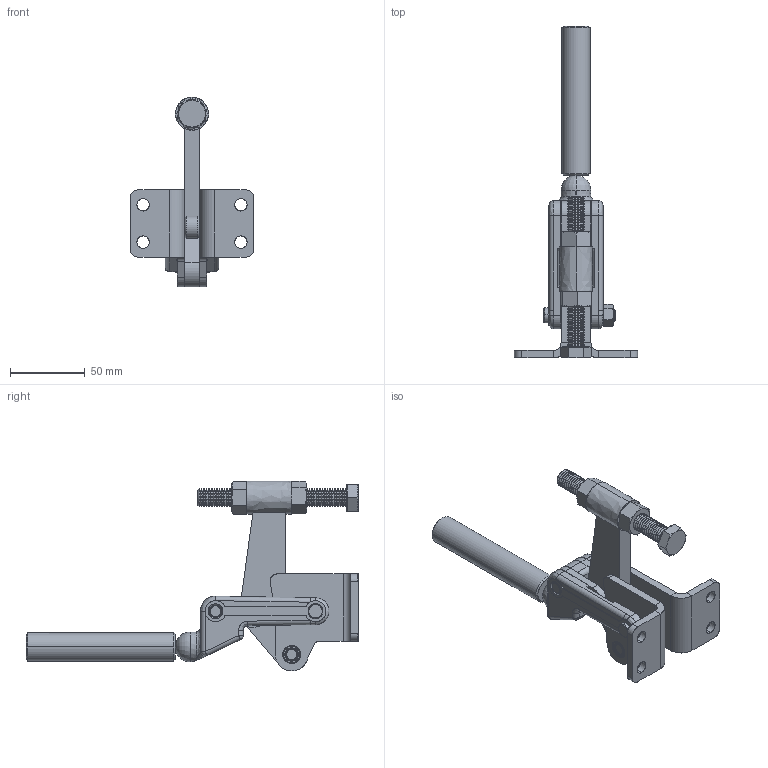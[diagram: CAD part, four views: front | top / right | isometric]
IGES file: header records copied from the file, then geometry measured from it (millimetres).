
Start section: SolidWorks IGES file using analytic representation for surfaces
Global section: file name: D:\SW-GH-FILES\GH7\70725\70725.IGS; native system: SolidWorks 2005 by SolidWorks Corporation; preprocessor: SolidWorks 2005 by SolidWorks Corporation; author: Chris; date: 050510.154947; units: millimetre
Bounding box: 82.54 x 222.52 x 127.2 mm (x, y, z)
Surface area: 73150.6 mm2 (no closed solid volume)
Topology: 0 solids, 0 shells, 2466 faces, 16773 edges, 16763 vertices
Faces by surface type: bspline 1485, revolution 981
